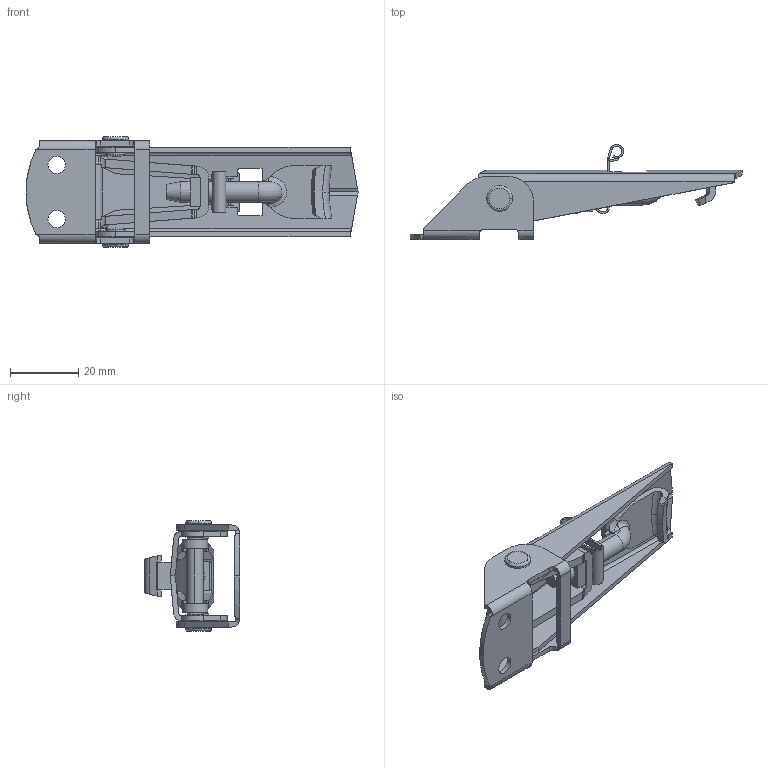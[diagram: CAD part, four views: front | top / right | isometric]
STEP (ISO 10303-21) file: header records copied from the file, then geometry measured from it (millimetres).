
FILE_DESCRIPTION (( 'STEP AP214' ), '1' );
FILE_NAME ('V917L01-1X1_Dummy.STEP', '2009-09-07T09:49:46', ( '' ), ( '' ), 'SwSTEP 2.0', 'SolidWorks 2007', '' );
FILE_SCHEMA (( 'AUTOMOTIVE_DESIGN' ));
Length unit declared in the file: millimetre
Products named in the file (1): V917L01-1X1_Dummy
Bounding box: 97.48 x 27.89 x 32.5 mm (x, y, z)
Volume: 10958.8 mm3; surface area: 14827 mm2
Topology: 1 solids, 1 shells, 381 faces, 1048 edges, 671 vertices
Faces by surface type: plane 167, cylinder 135, bspline 40, torus 25, cone 14
Entity records: 13050 total; most frequent: CARTESIAN_POINT 3690, ORIENTED_EDGE 2088, DIRECTION 1834, EDGE_CURVE 1044, VERTEX_POINT 671, AXIS2_PLACEMENT_3D 645, VECTOR 544, LINE 544
